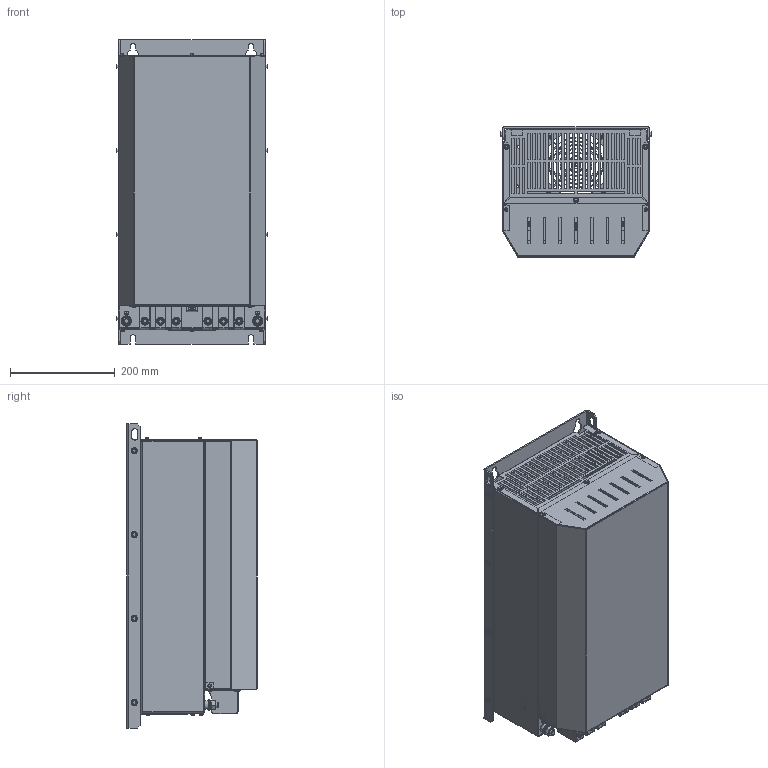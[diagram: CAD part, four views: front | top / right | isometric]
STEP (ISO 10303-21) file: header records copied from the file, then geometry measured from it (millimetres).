
FILE_DESCRIPTION((''),'2;1');
FILE_NAME('C:\Users\Samuel.Meier\Desktop\Fuer_Kamenka\EcoSine_Light_Typ_E.stp','2012-10-10T13:07:35',('Samuel.Meier'),(''),'Autodesk Inventor 2010','Autodesk Inventor 2010','');
FILE_SCHEMA(('AUTOMOTIVE_DESIGN { 1 0 10303 214 1 1 1 1 }'));
Length unit declared in the file: millimetre
Products named in the file (1): Bauteil28
Bounding box: 287.2 x 248 x 580 mm (x, y, z)
Volume: 1609824.5 mm3; surface area: 1509572.4 mm2
Topology: 10 solids, 39 shells, 2670 faces, 6731 edges, 4272 vertices
Faces by surface type: plane 1381, cylinder 617, bspline 390, cone 137, torus 85, sphere 60
Full cylindrical faces by diameter (mm): 2.905 x1, 3.2 x4, 3.3 x31, 4 x35, 5 x16, 5.5 x8, 6.5 x4, 6.8 x6, 7 x5, 7.3 x2, 7.713 x1, 7.9 x13, 8 x1, 8.7 x8, 9.188 x2, 9.9 x2, 10 x18, 10.5 x2, 12 x8, 12.7 x1, 15.4 x2, 16.5 x2, 20 x2
Entity records: 89531 total; most frequent: CARTESIAN_POINT 26241, ORIENTED_EDGE 12518, DIRECTION 11811, EDGE_CURVE 6259, VERTEX_POINT 4191, AXIS2_PLACEMENT_3D 4007, VECTOR 3797, LINE 3797
